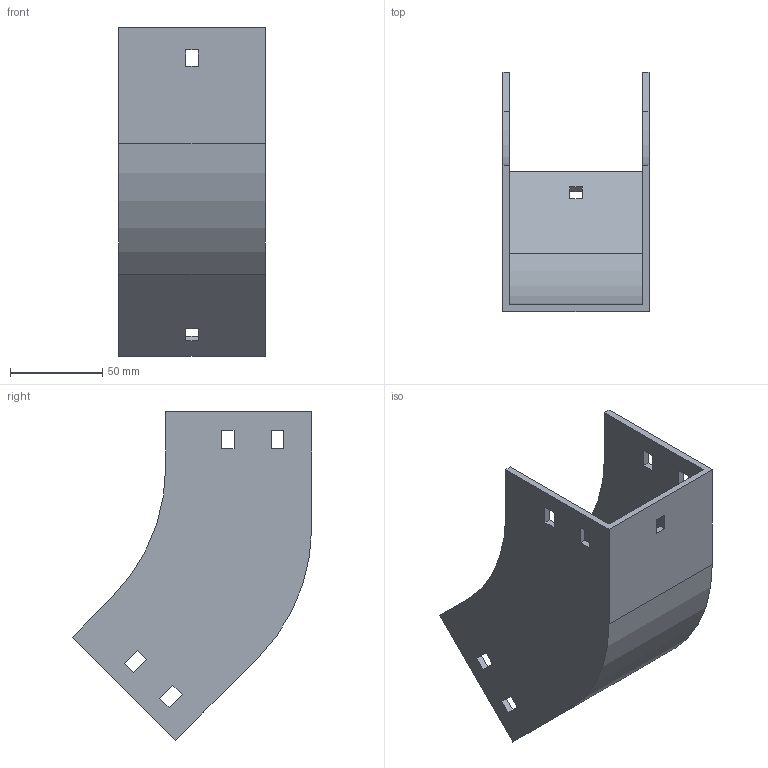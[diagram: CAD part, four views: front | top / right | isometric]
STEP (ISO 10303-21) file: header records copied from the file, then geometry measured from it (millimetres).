
FILE_DESCRIPTION (( 'STEP AP214' ), '1' );
FILE_NAME ('31F1C075.step', '2025-02-21T13:00:29', ( '' ), ( '' ), 'SwSTEP 2.0', 'SolidWorks 2023', '' );
FILE_SCHEMA (( 'AUTOMOTIVE_DESIGN' ));
Length unit declared in the file: millimetre
Products named in the file (1): 31F1C075
Bounding box: 79 x 129.5 x 177.79 mm (x, y, z)
Volume: 145776.3 mm3; surface area: 87059.1 mm2
Topology: 1 solids, 1 shells, 58 faces, 168 edges, 112 vertices
Faces by surface type: plane 54, cylinder 4
Entity records: 1943 total; most frequent: CARTESIAN_POINT 339, ORIENTED_EDGE 336, DIRECTION 294, EDGE_CURVE 168, VECTOR 160, LINE 160, VERTEX_POINT 112, EDGE_LOOP 78
